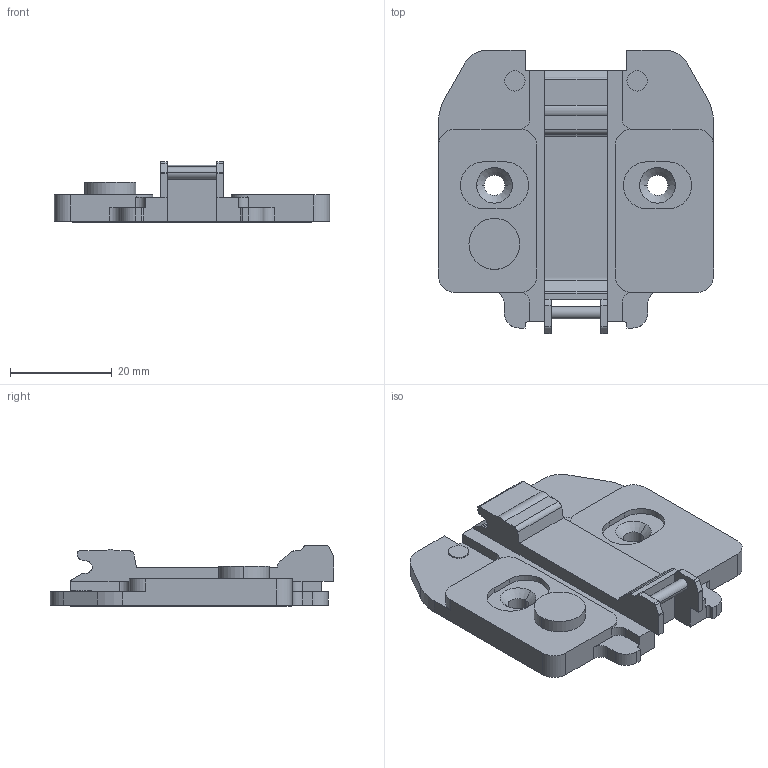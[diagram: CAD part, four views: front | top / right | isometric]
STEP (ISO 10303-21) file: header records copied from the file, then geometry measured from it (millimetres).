
FILE_DESCRIPTION (( 'STEP AP203' ), '1' );
FILE_NAME ('81T20TQ.STEP', '2020-02-12T05:29:39', ( 'Windows 蚚誧' ), ( '' ), 'SwSTEP 2.0', 'SolidWorks 2012', '' );
FILE_SCHEMA (( 'CONFIG_CONTROL_DESIGN' ));
Length unit declared in the file: millimetre
Products named in the file (1): 81T20TQ
Bounding box: 54 x 55.62 x 11.9 mm (x, y, z)
Volume: 13644.4 mm3; surface area: 7222.9 mm2
Topology: 1 solids, 1 shells, 157 faces, 436 edges, 288 vertices
Faces by surface type: plane 88, cylinder 63, cone 4, bspline 2
Entity records: 5136 total; most frequent: CARTESIAN_POINT 911, DIRECTION 872, ORIENTED_EDGE 872, EDGE_CURVE 436, LINE 302, VECTOR 302, VERTEX_POINT 288, AXIS2_PLACEMENT_3D 285
